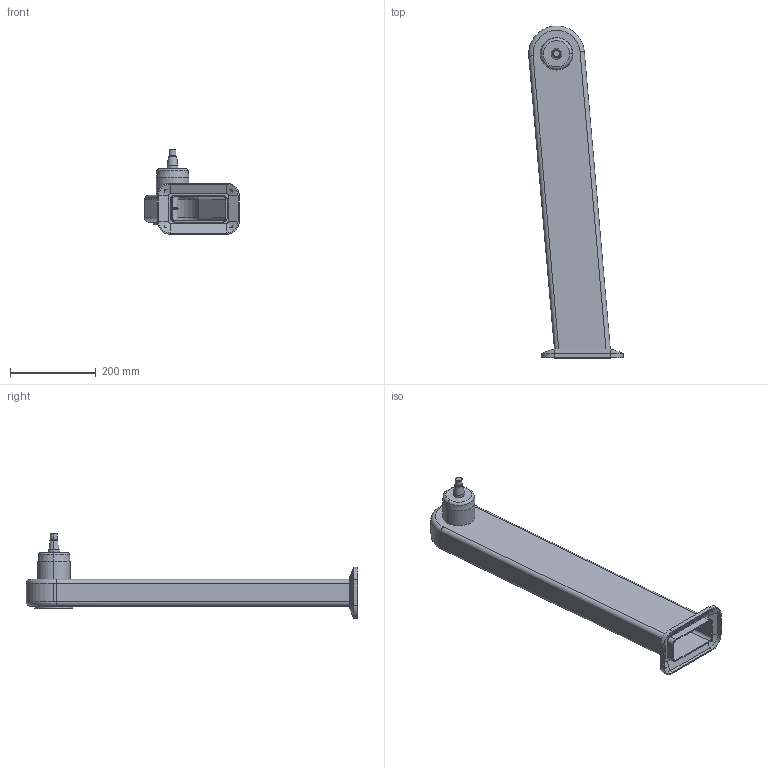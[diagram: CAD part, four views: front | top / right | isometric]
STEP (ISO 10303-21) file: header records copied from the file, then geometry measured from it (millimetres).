
FILE_DESCRIPTION (( 'STEP AP214' ), '1' );
FILE_NAME ('WP710_H710_-05.STEP', '2014-06-27T07:53:58', ( '' ), ( '' ), 'SwSTEP 2.0', 'SolidWorks 2014', '' );
FILE_SCHEMA (( 'AUTOMOTIVE_DESIGN' ));
Length unit declared in the file: millimetre
Products named in the file (1): WP710_H710_-05
Bounding box: 220.87 x 774.94 x 198 mm (x, y, z)
Volume: 1250252.8 mm3; surface area: 618663.8 mm2
Topology: 1 solids, 1 shells, 112 faces, 250 edges, 152 vertices
Faces by surface type: cylinder 44, plane 40, cone 20, torus 8
Entity records: 3211 total; most frequent: CARTESIAN_POINT 668, DIRECTION 552, ORIENTED_EDGE 500, EDGE_CURVE 250, AXIS2_PLACEMENT_3D 211, VERTEX_POINT 152, LINE 130, VECTOR 130
